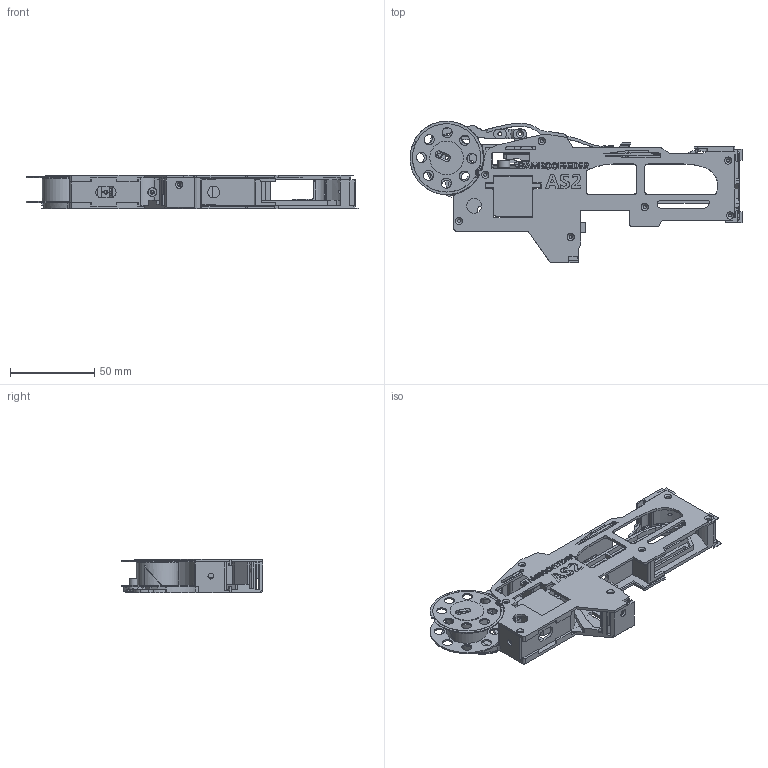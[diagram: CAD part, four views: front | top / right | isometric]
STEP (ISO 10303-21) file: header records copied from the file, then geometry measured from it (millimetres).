
FILE_DESCRIPTION (( 'STEP AP203' ), '1' );
FILE_NAME ('PPBF-AS2-16-V1.0-ASM01.STEP', '2026-03-18T04:34:51', ( '' ), ( '' ), 'SwSTEP 2.0', 'SolidWorks 2020', '' );
FILE_SCHEMA (( 'CONFIG_CONTROL_DESIGN' ));
Length unit declared in the file: millimetre
Products named in the file (16): PPBF-AS2-SpoolRing_16-V1.0; PPBF-AS2-Base_16-V1.0; PPBF-AS2-16-V1.0-ASM01; PPBF-AS2-TopClampingPlate_16-V1.0; ServoArm_Cut; Servo-SG90; PPBF-AS2-Spool_16-V1.0; PPBF-AS2-Cover_16-V1.0; PPBF-AS2-SpoolGear_16-V1.0; PPBF-AS2-Pushrod_16-V1.0; PPBF-AS2-TopSpring-V1.0; PPBF-AS2-ServoAdvancer-V1.0; PPBF-AS2-SpoolPawlPullrod-V1.0; PPBF-AS2-SpoolWasher-V1.0; PPBF-AS2-LabelCard_16-V1.0; PPBF-AS2-SpoolPawlPullrodConnector-V1.0
Assembly tree (15 placements, depth 2):
  PPBF-AS2-16-V1.0-ASM01
    PPBF-AS2-Base_16-V1.0
    PPBF-AS2-Cover_16-V1.0
    ServoArm_Cut
    Servo-SG90
    PPBF-AS2-ServoAdvancer-V1.0
    PPBF-AS2-Pushrod_16-V1.0
    PPBF-AS2-SpoolPawlPullrodConnector-V1.0
    PPBF-AS2-SpoolPawlPullrod-V1.0
    PPBF-AS2-SpoolWasher-V1.0
    PPBF-AS2-SpoolGear_16-V1.0
    PPBF-AS2-Spool_16-V1.0
    PPBF-AS2-SpoolRing_16-V1.0
    PPBF-AS2-TopSpring-V1.0
    PPBF-AS2-TopClampingPlate_16-V1.0
    PPBF-AS2-LabelCard_16-V1.0
Bounding box: 197.31 x 84.1 x 20.1 mm (x, y, z)
Volume: 64993.5 mm3; surface area: 73843.1 mm2
Topology: 16 solids, 16 shells, 2057 faces, 5771 edges, 3790 vertices
Faces by surface type: plane 1130, cylinder 700, bspline 108, cone 97, torus 18, sphere 4
Full cylindrical faces by diameter (mm): 1 x3, 1.75 x5, 1.85 x11, 1.9 x1, 2 x1, 2.2 x6, 2.25 x1, 2.3 x7, 2.4 x3, 3.5 x2, 3.9 x1, 4.1 x1, 4.5 x1, 5 x2, 5.2 x1, 5.3 x1, 6 x16, 6.85 x1, 7 x2, 7.2 x1, 9 x1, 12 x1, 12.838 x1, 16.038 x1, 16.8 x1, 19.9 x1, 20 x1, 24.5 x1, 43.6 x1
Entity records: 74446 total; most frequent: CARTESIAN_POINT 19872, ORIENTED_EDGE 11264, DIRECTION 10656, EDGE_CURVE 5632, VERTEX_POINT 3756, VECTOR 3684, LINE 3684, AXIS2_PLACEMENT_3D 3486
